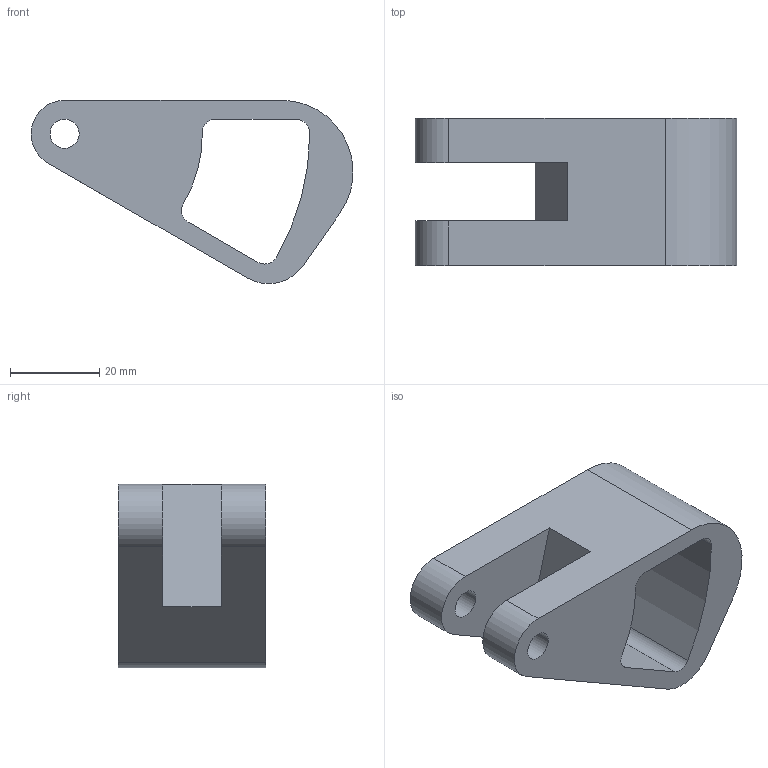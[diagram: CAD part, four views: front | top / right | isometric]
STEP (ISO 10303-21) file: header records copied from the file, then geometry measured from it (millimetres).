
FILE_DESCRIPTION((''),'2;1');
FILE_NAME('P1204','2012-03-13T',('jas'),(''),'PRO/ENGINEER BY PARAMETRIC TECHNOLOGY CORPORATION, 2011490','PRO/ENGINEER BY PARAMETRIC TECHNOLOGY CORPORATION, 2011490','');
FILE_SCHEMA(('AUTOMOTIVE_DESIGN { 1 0 10303 214 1 1 1 1 }'));
Length unit declared in the file: millimetre
Products named in the file (1): P1204
Bounding box: 71.97 x 33 x 41 mm (x, y, z)
Volume: 34727.5 mm3; surface area: 12901.4 mm2
Topology: 1 solids, 1 shells, 24 faces, 66 edges, 44 vertices
Faces by surface type: cylinder 14, plane 10
Entity records: 1366 total; most frequent: DIRECTION 142, CARTESIAN_POINT 136, ORIENTED_EDGE 132, PRESENTATION_STYLE_ASSIGNMENT 67, STYLED_ITEM 67, CURVE_STYLE 66, EDGE_CURVE 66, PROPERTY_DEFINITION 59
